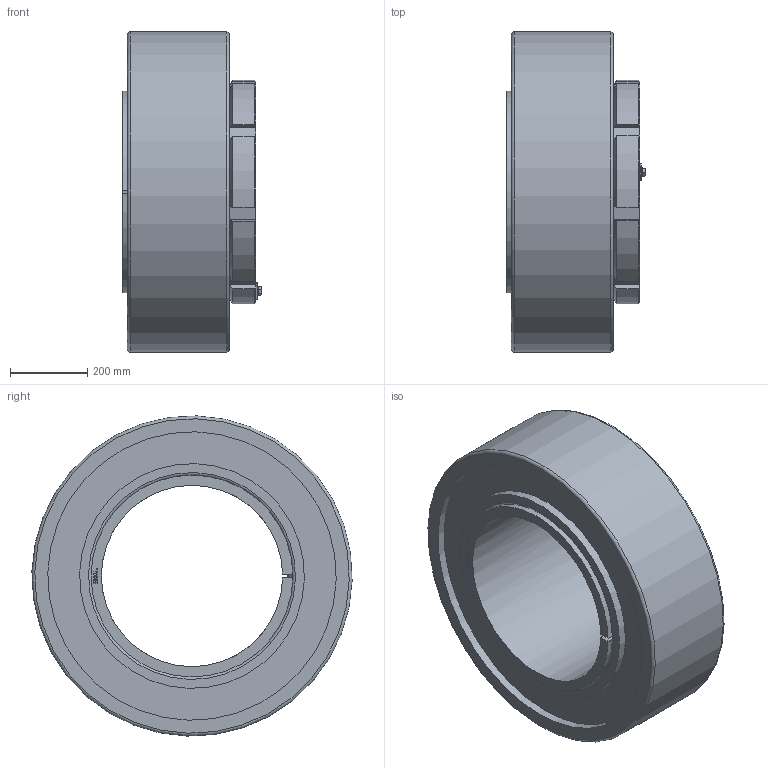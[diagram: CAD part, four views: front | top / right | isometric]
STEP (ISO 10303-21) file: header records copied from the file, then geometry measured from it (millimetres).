
FILE_DESCRIPTION( ( 'STEP AP203' ), ' ' );
FILE_NAME( 'p:/temp/worker_352/4084_4976/app_90_02016102823161036814095192d056f_000000_00_00_000000/format_0/BGL HE 31_500 TL+C31_500K.stp', '2016-10-28T21:16:12', ( '' ), ( '' ), ' ', 'PARTsolutions', ' ' );
FILE_SCHEMA( ( 'CONFIG_CONTROL_DESIGN' ) );
Length unit declared in the file: millimetre
Products named in the file (6): BGL HE 31/500 TL+C31/500K; _BGLHE31/500TLB; _BGL HM 30/500; _BGLHE31/500TL+HE-C31/500K; _BGL MS 3096-30/500part; _BGL MS 3096-30/500HHS
Assembly tree (5 placements, depth 2):
  BGL HE 31/500 TL+C31/500K
    _BGLHE31/500TLB
    _BGL HM 30/500
    _BGLHE31/500TL+HE-C31/500K
    _BGL MS 3096-30/500part
    _BGL MS 3096-30/500HHS
Bounding box: 358.78 x 829.72 x 829.72 mm (x, y, z)
Volume: 95572572.6 mm3; surface area: 3442659.5 mm2
Topology: 5 solids, 5 shells, 351 faces, 899 edges, 589 vertices
Faces by surface type: plane 230, cylinder 79, cone 38, torus 4
Full cylindrical faces by diameter (mm): 12 x9, 14 x1, 21.1 x1, 495 x1, 582.5 x2, 747.5 x2, 830 x1
Entity records: 10774 total; most frequent: CARTESIAN_POINT 2116, DIRECTION 1729, ORIENTED_EDGE 1726, EDGE_CURVE 863, VERTEX_POINT 586, AXIS2_PLACEMENT_3D 577, LINE 575, VECTOR 575
